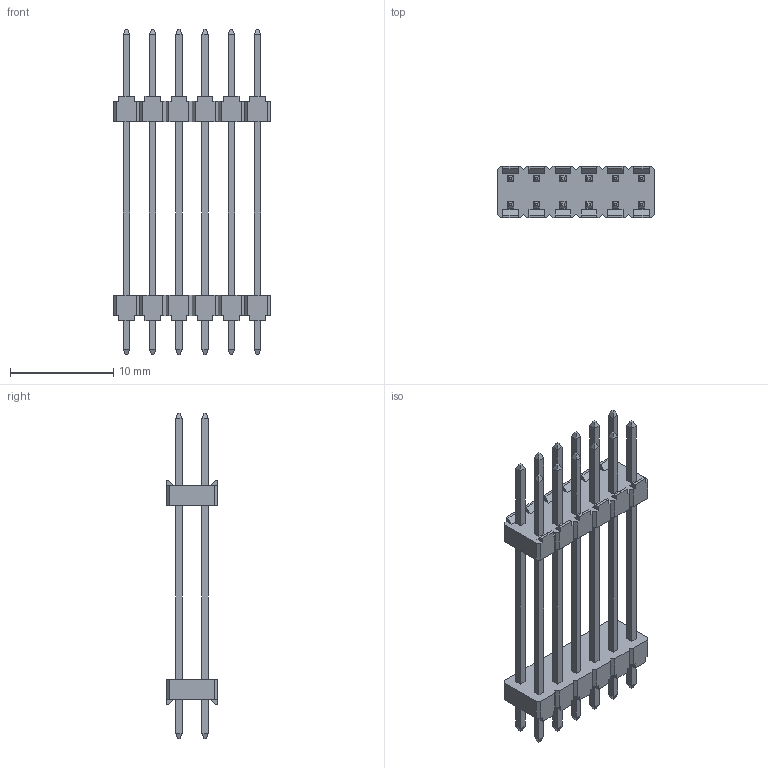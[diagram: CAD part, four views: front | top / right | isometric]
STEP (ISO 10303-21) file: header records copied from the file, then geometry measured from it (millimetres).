
FILE_DESCRIPTION(/* description */ (''),/* implementation_level */ '2;1');
FILE_NAME(/* name */ '961412-8041404-XX',/* time_stamp */ '2007-06-14T17:31:55+02:00',/* author */ (''),/* organization */ (''),/* preprocessor_version */ 'ST-DEVELOPER v9',/* originating_system */ 'UGS - NX 3.0',/* authorisation */ '');
FILE_SCHEMA (('AUTOMOTIVE_DESIGN { 1 0 10303 214 1 1 1 1 }'));
Length unit declared in the file: millimetre
Products named in the file (1): 961412-8041404-XX
Bounding box: 15.24 x 5 x 31.6 mm (x, y, z)
Volume: 440.4 mm3; surface area: 1321.7 mm2
Topology: 1 solids, 1 shells, 468 faces, 1224 edges, 784 vertices
Faces by surface type: plane 468
Entity records: 14008 total; most frequent: CARTESIAN_POINT 2477, ORIENTED_EDGE 2448, DIRECTION 2162, EDGE_CURVE 1224, LINE 1224, VECTOR 1224, VERTEX_POINT 784, EDGE_LOOP 516
